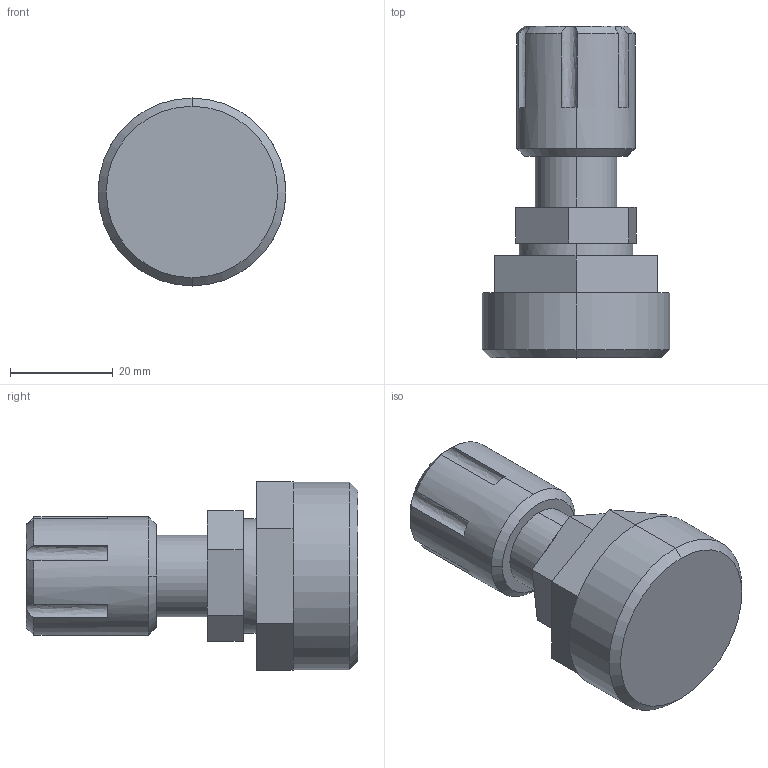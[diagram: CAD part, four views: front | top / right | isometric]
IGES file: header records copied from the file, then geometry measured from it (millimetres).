
Start section: SolidWorks IGES file using analytic representation for surfaces
Global section: file name: S:\Product Visuals\REVISED-30L-TOP-MOUNT-FITTINGS\IGS\top-straight-outlet-only\flaretek\06-flaretek-with-top-mount-adapter.IGS; native system: SolidWorks 2012; preprocessor: SolidWorks 2012; author: rachel.dressel; date: 121127.151346; units: inch
Bounding box: 36.6 x 64.67 x 36.66 mm (x, y, z)
Volume: 35228.2 mm3; surface area: 7959.1 mm2
Topology: 1 solids, 1 shells, 80 faces, 196 edges, 122 vertices
Faces by surface type: plane 48, revolution 32
